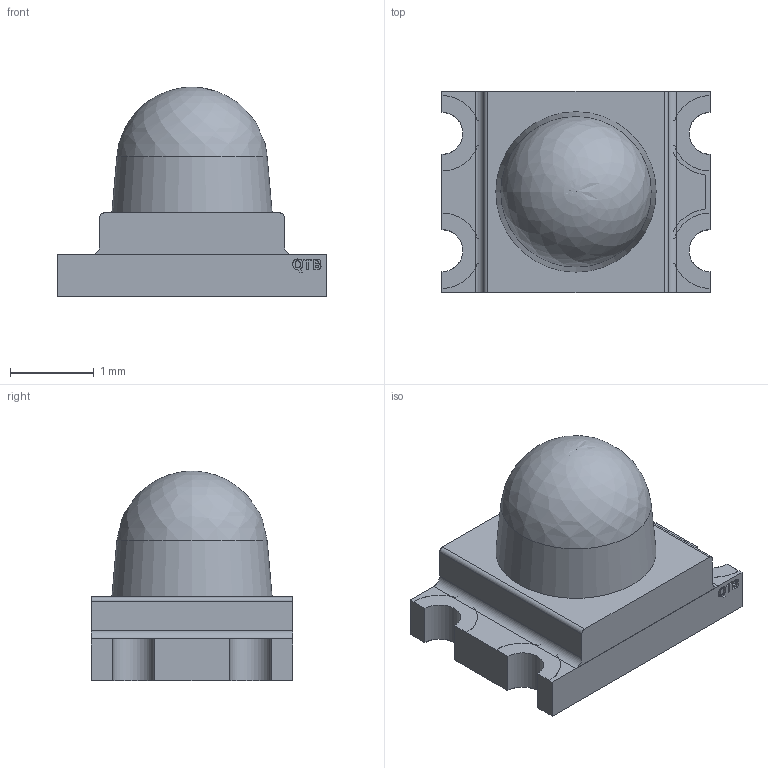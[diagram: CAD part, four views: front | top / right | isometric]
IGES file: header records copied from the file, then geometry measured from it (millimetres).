
Start section: Data from Parasolid IGES Translator 23.1.110, Copyright(c) 2006 Siemens PLM Software. All Rights Reserved.
Global section: file name: 5fab0eb64170af0f33aae9f8.iges; native system: By Siemens PLM Incorporated; preprocessor: XPlus GENERIC/IGES 23.1.110; author: Noname; organization: Noname; date: 20201110.220543; units: metre
Bounding box: 3.2 x 2.4 x 2.5 mm (x, y, z)
Surface area: 50.9 mm2 (no closed solid volume)
Topology: 0 solids, 0 shells, 203 faces, 1091 edges, 1088 vertices
Faces by surface type: extrusion 159, revolution 44
